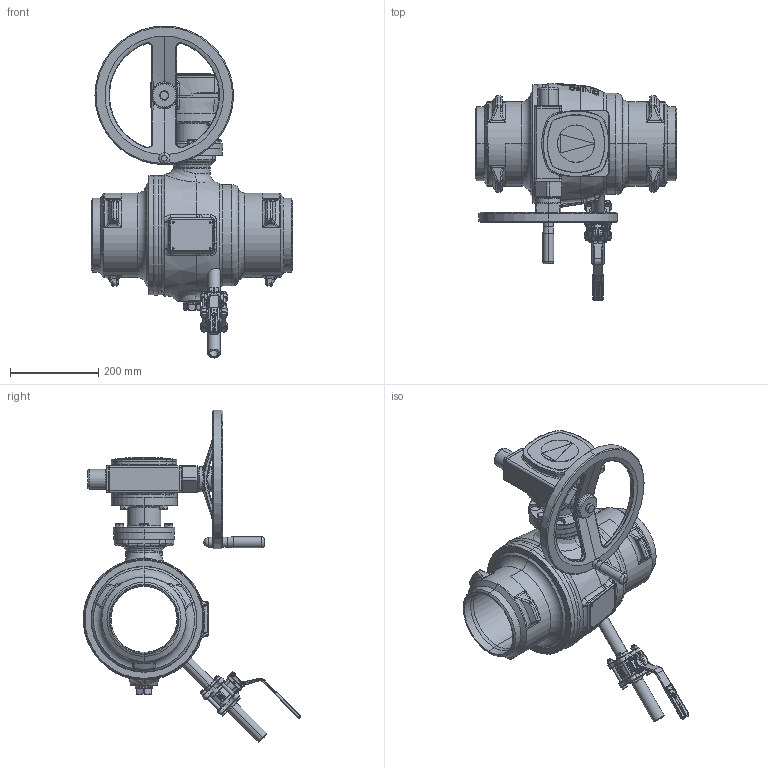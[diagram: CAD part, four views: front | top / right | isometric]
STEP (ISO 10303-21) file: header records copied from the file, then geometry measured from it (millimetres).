
FILE_DESCRIPTION((''),'2;1');
FILE_NAME('150_ASM','2017-01-16T',('schwaba'),('RAND'),'PRO/ENGINEER BY PARAMETRIC TECHNOLOGY CORPORATION, 2016100','PRO/ENGINEER BY PARAMETRIC TECHNOLOGY CORPORATION, 2016100','');
FILE_SCHEMA(('CONFIG_CONTROL_DESIGN'));
Products named in the file (3): KHSVI_150_VVSN_FR_WE_ENTL_O_IT; GS63_F12_AHR315_ZWSTK_DN150; 150_ASM
Assembly tree (2 placements, depth 2):
  150_ASM
    KHSVI_150_VVSN_FR_WE_ENTL_O_IT
    GS63_F12_AHR315_ZWSTK_DN150
Bounding box: 457 x 493.91 x 754.29 mm (x, y, z)
Volume: 11283386.3 mm3; surface area: 1631847.6 mm2
Topology: 3 solids, 11 shells, 4729 faces, 11970 edges, 7402 vertices
Faces by surface type: plane 2338, cylinder 818, bspline 530, torus 469, cone 459, sphere 115
Entity records: 217549 total; most frequent: CARTESIAN_POINT 106961, ORIENTED_EDGE 23828, DIRECTION 22445, EDGE_CURVE 11914, AXIS2_PLACEMENT_3D 8447, VERTEX_POINT 7402, VECTOR 5551, LINE 5551
